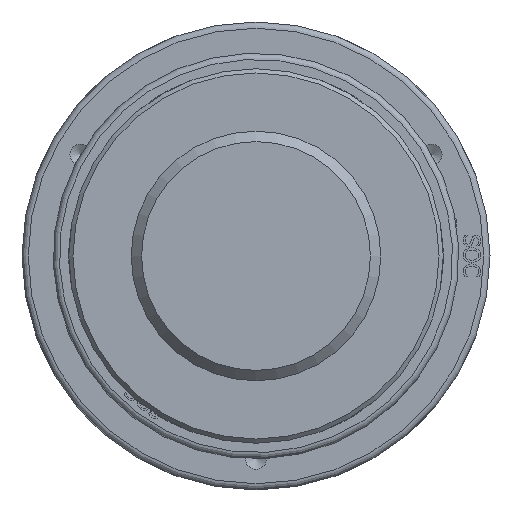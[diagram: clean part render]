
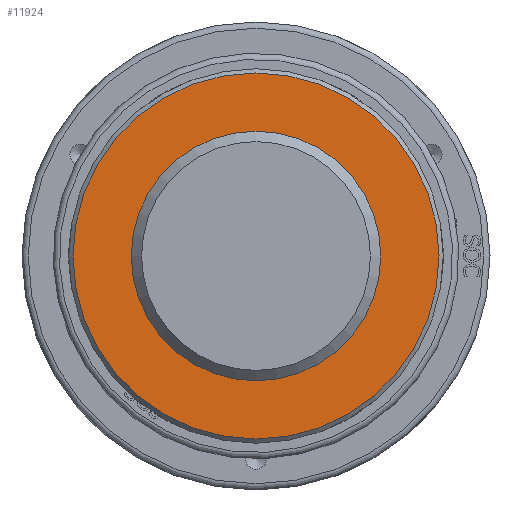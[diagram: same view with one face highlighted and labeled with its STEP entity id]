
A CAD part, front view. The second image highlights one B-rep face of the part: STEP entity #11924.
In plain terms, the highlighted planar face has unit normal (0, -1, 0) as drawn and (0, 1, 0) by its records, which use the part's own axes.
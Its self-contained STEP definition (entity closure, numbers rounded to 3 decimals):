
#90=CIRCLE('',#12543,88.);
#92=CIRCLE('',#12547,56.753);
#171=FACE_BOUND('',#2369,.T.);
#1640=FACE_OUTER_BOUND('',#2368,.T.);
#2368=EDGE_LOOP('',(#9467));
#2369=EDGE_LOOP('',(#9468));
#5360=VERTEX_POINT('',#18302);
#5374=VERTEX_POINT('',#18542);
#6841=EDGE_CURVE('',#5360,#5360,#90,.T.);
#6855=EDGE_CURVE('',#5374,#5374,#92,.T.);
#9467=ORIENTED_EDGE('',*,*,#6841,.F.);
#9468=ORIENTED_EDGE('',*,*,#6855,.T.);
#11475=PLANE('',#12546);
#11924=ADVANCED_FACE('',(#1640,#171),#11475,.T.);
#12543=AXIS2_PLACEMENT_3D('',#18303,#13610,#13611);
#12546=AXIS2_PLACEMENT_3D('',#18541,#13616,#13617);
#12547=AXIS2_PLACEMENT_3D('',#18543,#13618,#13619);
#13610=DIRECTION('center_axis',(0.,-1.,0.));
#13611=DIRECTION('ref_axis',(1.,0.,0.));
#13616=DIRECTION('center_axis',(0.,1.,0.));
#13617=DIRECTION('ref_axis',(0.,0.,1.));
#13618=DIRECTION('center_axis',(0.,-1.,0.));
#13619=DIRECTION('ref_axis',(1.,0.,0.));
#18302=CARTESIAN_POINT('',(-88.,60.,0.));
#18303=CARTESIAN_POINT('Origin',(0.,60.,0.));
#18541=CARTESIAN_POINT('Origin',(0.,60.,0.));
#18542=CARTESIAN_POINT('',(-56.753,60.,0.));
#18543=CARTESIAN_POINT('Origin',(0.,60.,0.));
